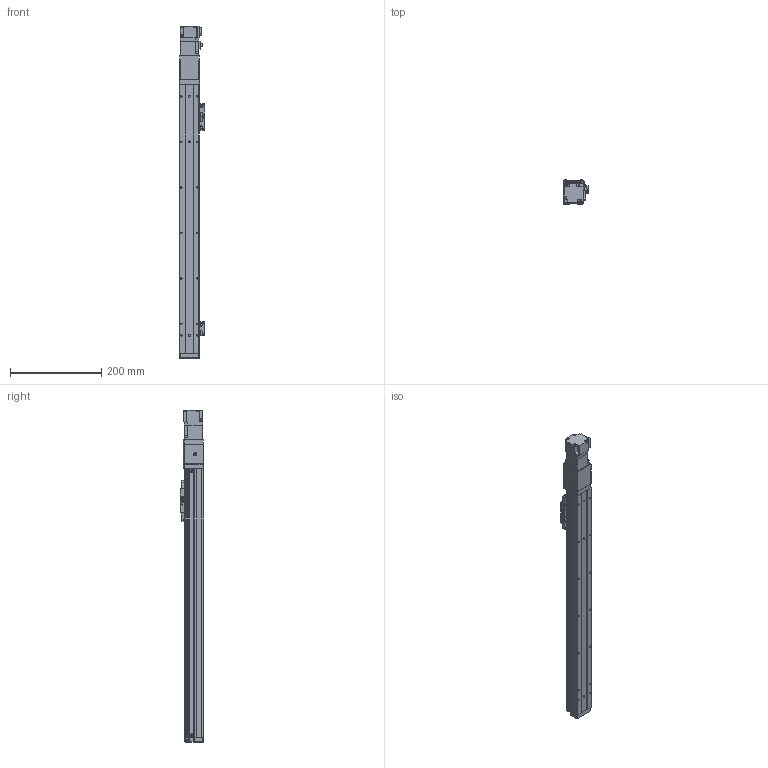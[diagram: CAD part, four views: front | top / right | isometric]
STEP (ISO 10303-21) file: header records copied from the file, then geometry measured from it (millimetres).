
FILE_DESCRIPTION (( 'STEP AP203' ), '1' );
FILE_NAME ('BTH40-450-BC-M05-C4.step', '2021-12-16T00:12:00', ( '微软用户' ), ( '微软中国' ), 'SwSTEP 2.0', 'SolidWorks 2020', '' );
FILE_SCHEMA (( 'CONFIG_CONTROL_DESIGN' ));
Length unit declared in the file: millimetre
Products named in the file (19): GBT70.1-2000 M3×16; GBT96.1-2002 3×0.8; BTH40-017; BTH50-028; BTH40-022; BTH40-005-1; BTH50-023; GBT 70.1-M2.5×6; BTH40-450-BC-M05-C4; BTH40-001-50_BTH40-001-450; BTH40-004; BTH40-003; BTH40-013; BTH40-006; BTH50-024; HG-KR13; BTH-M3X5X6; GBT 70.1-M3℅6; GBT 70.3-M3℅6
Assembly tree (49 placements, depth 2):
  BTH40-450-BC-M05-C4
    BTH40-001-50_BTH40-001-450
    BTH40-003
    BTH40-006
    BTH-M3X5X6  x10
    GBT70.1-2000 M3×16  x4
    BTH50-028  x2
    BTH50-023  x3
    BTH50-024  x3
    GBT 70.1-M3℅6  x6
    GBT96.1-2002 3×0.8  x6
    BTH40-022
    GBT 70.1-M2.5×6  x2
    BTH40-004
    BTH40-013
    HG-KR13
    GBT 70.3-M3℅6  x4
    BTH40-017
    BTH40-005-1
Bounding box: 55.2 x 52 x 729.4 mm (x, y, z)
Volume: 1139290.1 mm3; surface area: 216604.9 mm2
Topology: 51 solids, 51 shells, 1962 faces, 4621 edges, 2860 vertices
Faces by surface type: plane 1088, cylinder 465, cone 257, torus 132, bspline 16, sphere 4
Entity records: 37835 total; most frequent: CARTESIAN_POINT 6838, DIRECTION 5944, ORIENTED_EDGE 5704, EDGE_CURVE 2852, LINE 2014, VECTOR 2014, AXIS2_PLACEMENT_3D 1965, VERTEX_POINT 1791
